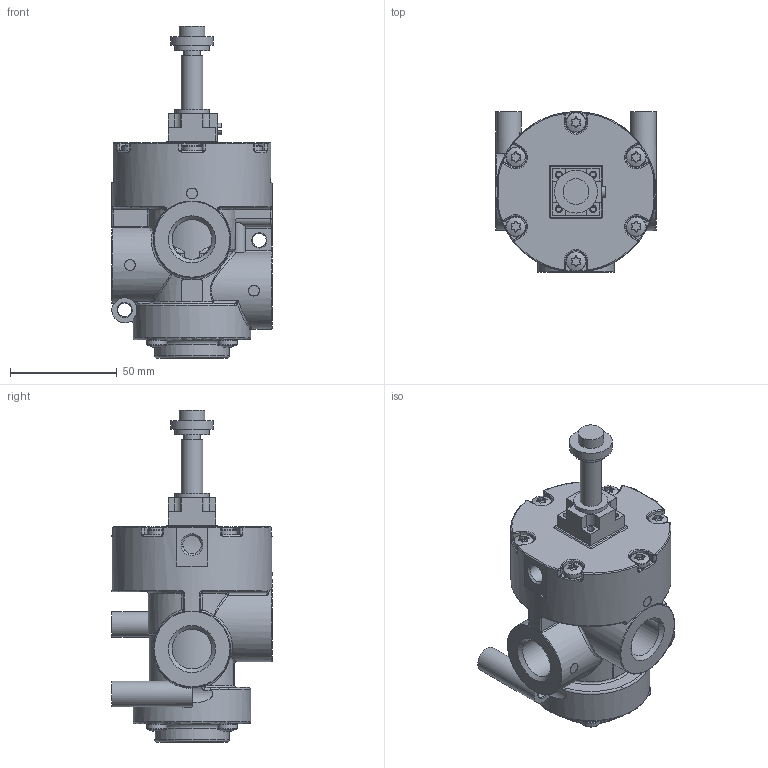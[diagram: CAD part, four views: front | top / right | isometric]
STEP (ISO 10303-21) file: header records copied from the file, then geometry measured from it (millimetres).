
FILE_DESCRIPTION(/* description */ ('EV.x VUOTO SOL.EST.S.Rap.-MOLLA 3/2 NC/NA con MP'),/* implementation_level */ '2;1');
FILE_NAME(/* name */ 'C:\PNX_VAULTFOLDER\Area Tecnica\Disegni\VARIE-3D\Componenti\1900 (vuoto)\T772-VS_32_0_1_MP.stp',/* time_stamp */ '2019-09-13T13:52:01+02:00',/* author */ ('maniean1'),/* organization */ ('Pneumax S.p.A.'),/* preprocessor_version */ 'ST-DEVELOPER v17',/* originating_system */ 'Autodesk Inventor 2019',/* authorisation */ '');
FILE_SCHEMA (('AUTOMOTIVE_DESIGN { 1 0 10303 214 3 1 1 }'));
Length unit declared in the file: millimetre
Products named in the file (1): T772/VS.32.0.1.MP
Bounding box: 75 x 75 x 155.3 mm (x, y, z)
Volume: 290464.1 mm3; surface area: 56533.6 mm2
Topology: 1 solids, 36 shells, 1333 faces, 3217 edges, 1932 vertices
Faces by surface type: cylinder 535, plane 362, torus 195, bspline 126, sphere 99, cone 16
Full cylindrical faces by diameter (mm): 3 x1, 3.15 x4, 4.1 x10, 4.459 x1, 5 x14, 5.2 x6, 5.25 x4, 5.5 x4, 6.5 x2, 8 x1, 8.566 x1, 9.25 x4, 10 x1, 12 x3, 16 x2, 18.631 x3, 20 x1, 35 x1, 55 x1, 75 x1
Entity records: 47041 total; most frequent: CARTESIAN_POINT 15102, DIRECTION 6638, ORIENTED_EDGE 6304, EDGE_CURVE 3152, AXIS2_PLACEMENT_3D 2793, VERTEX_POINT 1932, CIRCLE 1525, EDGE_LOOP 1398
